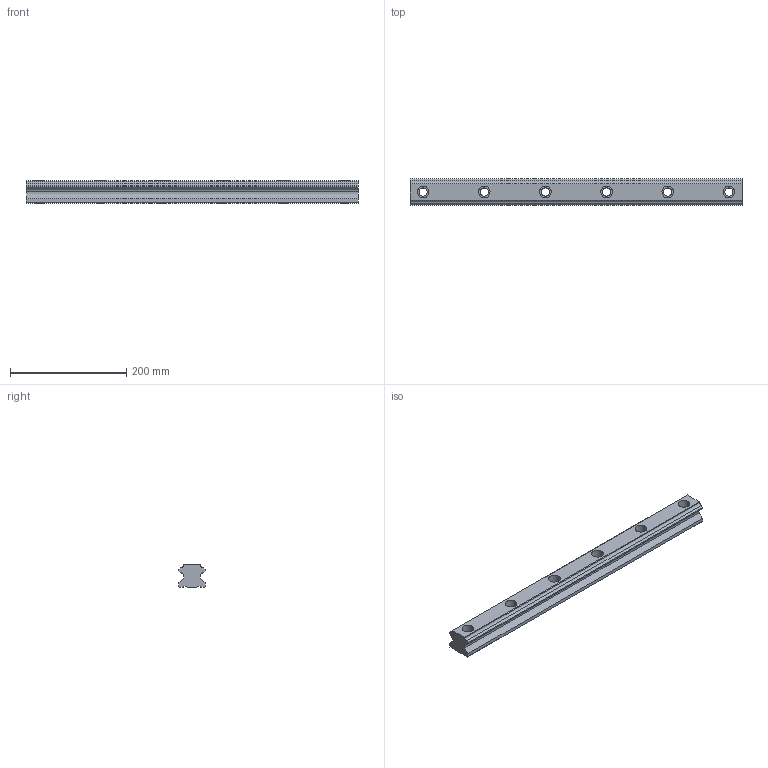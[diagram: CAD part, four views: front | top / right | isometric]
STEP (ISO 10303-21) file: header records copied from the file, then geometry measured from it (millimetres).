
FILE_DESCRIPTION(('starvars output'),'2;1');
FILE_NAME('cv20190626220324000039799.stp','22:03:24 2019/06/26',( 'Thomas Industrial Network Germany GmbH'),( 'Thomas Industrial Network Germany GmbH'),'unknown preprocess','ACIS' ,'unknown authorization');
FILE_SCHEMA(('CONFIG_CONTROL_DESIGN {UNKNOWN IMPLEMENTATION LEVEL}'));
Length unit declared in the file: millimetre
Products named in the file (1): PRODUCT_ID_1
Bounding box: 570 x 45 x 38 mm (x, y, z)
Volume: 753899.6 mm3; surface area: 111140.2 mm2
Topology: 1 solids, 1 shells, 65 faces, 171 edges, 114 vertices
Faces by surface type: plane 37, cylinder 28
Entity records: 1950 total; most frequent: ORIENTED_EDGE 342, CARTESIAN_POINT 314, DIRECTION 285, EDGE_CURVE 171, VECTOR 115, LINE 115, VERTEX_POINT 114, AXIS2_PLACEMENT_3D 85
